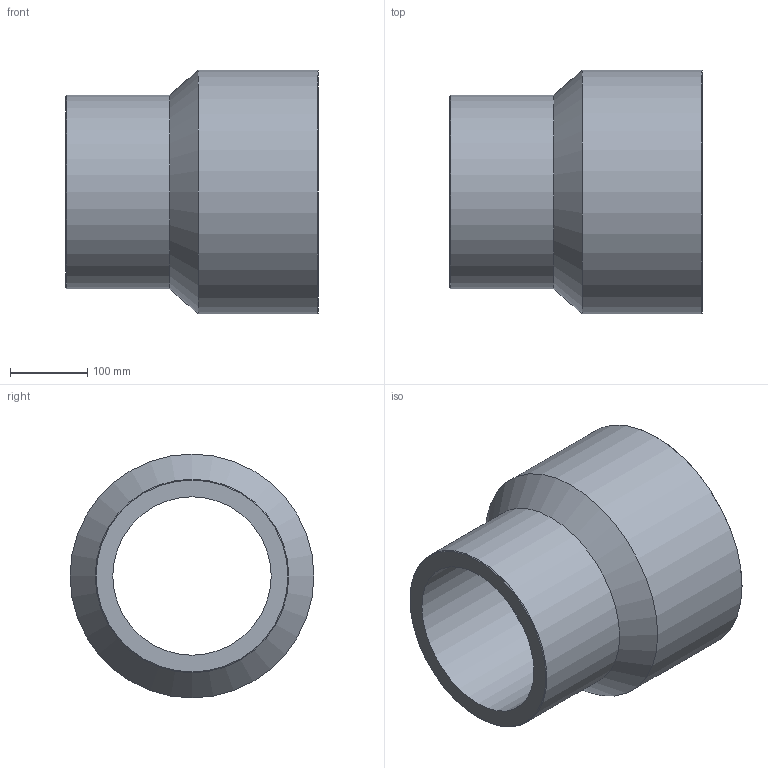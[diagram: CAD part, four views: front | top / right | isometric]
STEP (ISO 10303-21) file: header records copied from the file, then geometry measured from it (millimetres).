
FILE_DESCRIPTION(/* description */ ('Unknown'),/* implementation_level */ '2;1');
FILE_NAME(/* name */ 'RP315250C',/* time_stamp */ '2021-09-17T15:30:21+02:00',/* author */ ('Unknown'),/* organization */ ('Unknown'),/* preprocessor_version */ 'ST-DEVELOPER v16.7',/* originating_system */ 'Solid Edge',/* authorisation */ 'Unknown');
FILE_SCHEMA (('AUTOMOTIVE_DESIGN {1 0 10303 214 3 1 1}'));
Length unit declared in the file: millimetre
Products named in the file (1): RP315250C
Bounding box: 326 x 315 x 315 mm (x, y, z)
Volume: 7203192.1 mm3; surface area: 584527.2 mm2
Topology: 1 solids, 1 shells, 10 faces, 19 edges, 11 vertices
Faces by surface type: cylinder 4, cone 4, plane 2
Full cylindrical faces by diameter (mm): 204.6 x1, 250 x1, 257.8 x1, 315 x1
Entity records: 238 total; most frequent: DIRECTION 42, CARTESIAN_POINT 31, AXIS2_PLACEMENT_3D 21, ORIENTED_EDGE 20, EDGE_LOOP 20, FACE_BOUND 20, EDGE_CURVE 10, VERTEX_POINT 10
